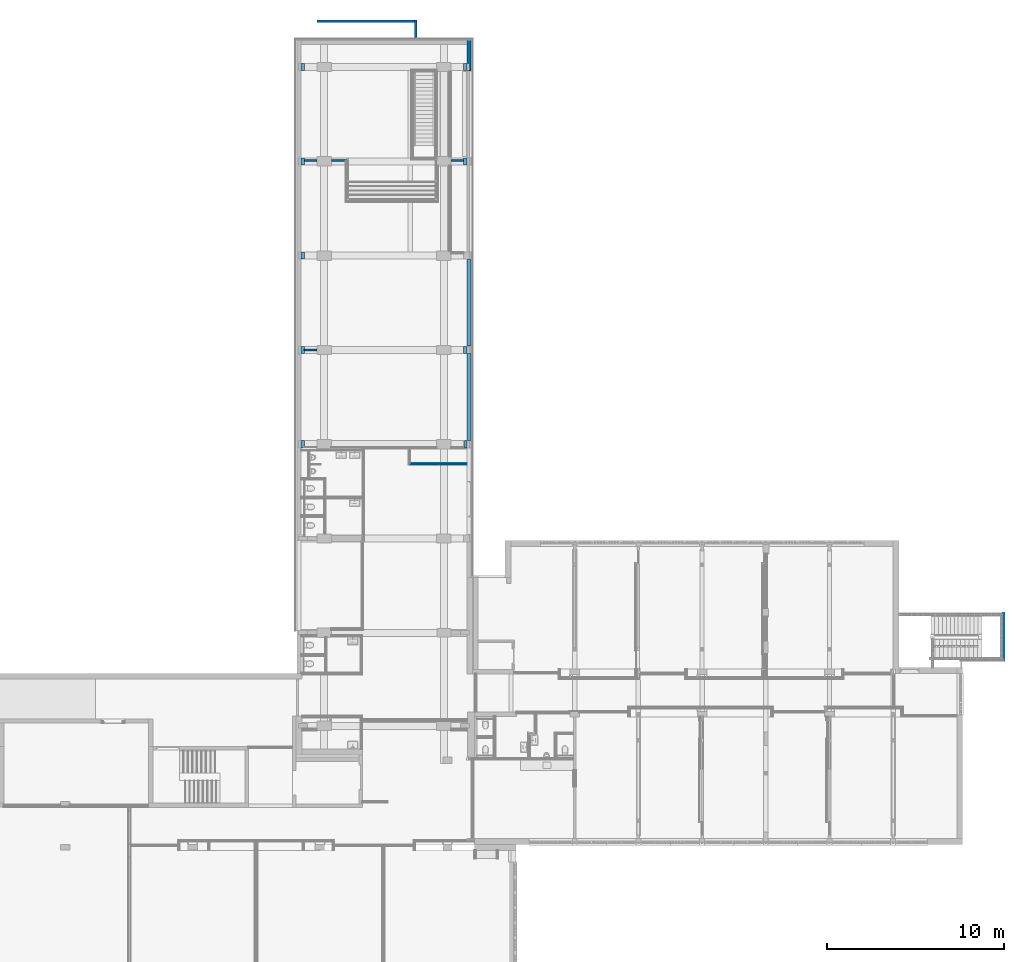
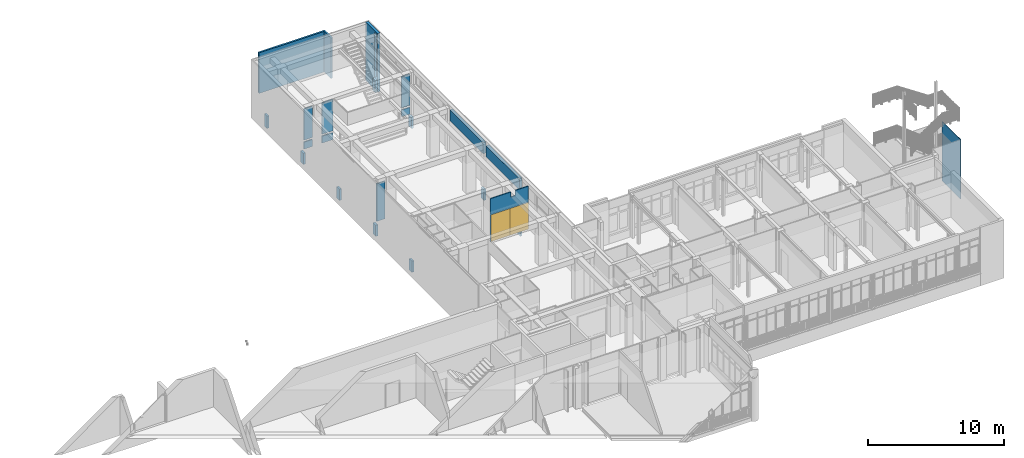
# One storey, part 46 of 135: 19 walls, 3 building element parts, 2 doors, 2 openings, 1 element without a shape of its own.
"""IFC2X3 building model written with IfcOpenShell, lengths in millimetres."""

from ifc_helpers import new_model, entity, si_unit, converted_unit, derived_unit, money_unit, direction, frame, origin_with_axes, place, context, subcontext, project, spatial, faceted_brep, source, transform, mapped, material, type_object, type_shapes, element, fill, aggregate, save


model = new_model("IFC2X3")

# Units and contexts
model_context = context("Model", 3, precision=0.01, world=origin_with_axes(), true_north=direction((0.0, 1.0)))
body_context = subcontext(model_context, "Body", "Model", "MODEL_VIEW")
ifc_project = project(units=[si_unit("LENGTHUNIT", "METRE", prefix="MILLI"), si_unit("AREAUNIT", "SQUARE_METRE"), si_unit("VOLUMEUNIT", "CUBIC_METRE"), converted_unit("PLANEANGLEUNIT", "DEGREE", entity("IfcPlaneAngleMeasure", 0.0174532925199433), si_unit("PLANEANGLEUNIT", "RADIAN"), dimensions=[0, 0, 0, 0, 0, 0, 0]), money_unit("EUR"), converted_unit("TIMEUNIT", "Year", entity("IfcTimeMeasure", 31557600.0), si_unit("TIMEUNIT", "SECOND"), dimensions=[0, 0, 1, 0, 0, 0, 0]), si_unit("MASSUNIT", "GRAM", prefix="KILO"), si_unit("THERMODYNAMICTEMPERATUREUNIT", "DEGREE_CELSIUS"), si_unit("LUMINOUSINTENSITYUNIT", "LUMEN"), si_unit("ENERGYUNIT", "JOULE", prefix="MEGA"), derived_unit("THERMALCONDUCTANCEUNIT", [(si_unit("POWERUNIT", "WATT"), 1), (si_unit("LENGTHUNIT", "METRE"), -1), (si_unit("THERMODYNAMICTEMPERATUREUNIT", "KELVIN"), -1)]), derived_unit("SPECIFICHEATCAPACITYUNIT", [(si_unit("ENERGYUNIT", "JOULE"), 1), (si_unit("MASSUNIT", "GRAM", prefix="KILO"), -1), (si_unit("THERMODYNAMICTEMPERATUREUNIT", "KELVIN"), -1)]), derived_unit("MASSDENSITYUNIT", [(si_unit("MASSUNIT", "GRAM", prefix="KILO"), 1), (si_unit("VOLUMEUNIT", "CUBIC_METRE"), -1)])], contexts=[model_context])

# Site, building, storey
site_placement = place(None, origin_with_axes())
site = spatial("IfcSite", under=ifc_project, at=site_placement, Name="Site", CompositionType="ELEMENT")
building_placement = place(site_placement, origin_with_axes())
building = spatial("IfcBuilding", under=site, at=building_placement, Name="Naam gebouw", CompositionType="ELEMENT")
storey_placement = place(building_placement, origin_with_axes())
storey = spatial("IfcBuildingStorey", under=building, at=storey_placement, Name="Begane grond N", CompositionType="ELEMENT", Elevation=0.0)

# Door
door_style = type_object("IfcDoorStyle", Name="D2 27", ConstructionType="NOTDEFINED", OperationType="DOUBLE_DOOR_SINGLE_SWING", ParameterTakesPrecedence=False, Sizeable=False)
shared_shape = source(origin_with_axes(), body_context, "Body", "Brep", [
    faceted_brep([(-733.0000000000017, -40.0, 0.0), (-733.000000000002, -39.99999999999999, 2333.0), (-733.000000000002, -114.0, 2333.0), (-733.000000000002, -114.0, 0.0), (-750.000000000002, -40.0, 2333.0), (-750.000000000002, -40.0, 0.0), (-750.000000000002, 0.0, 2333.0), (-800.000000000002, 0.0, 2333.0), (-800.000000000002, -114.0, 2333.0), (-800.000000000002, -114.0, 0.0), (-800.000000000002, 0.0, 0.0), (-750.000000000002, 0.0, 0.0)], [[[0, 1, 2, 3]], [[4, 1, 0, 5]], [[4, 6, 7, 8, 2, 1]], [[3, 2, 8, 9]], [[5, 0, 3, 9, 10, 11]], [[6, 4, 5, 11]], [[6, 11, 10, 7]], [[10, 9, 8, 7]]]),
    faceted_brep([(750.000000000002, -40.0, 2333.0), (733.000000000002, -39.99999999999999, 2333.0), (733.000000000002, -114.0, 2333.0), (800.000000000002, -114.0, 2333.0), (800.000000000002, 0.0, 2333.0), (750.000000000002, 0.0, 2333.0), (750.000000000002, -40.0, 0.0), (733.000000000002, -40.0, 0.0), (733.000000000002, -114.0, 0.0), (800.000000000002, -114.0, 0.0), (800.000000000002, 0.0, 0.0), (750.000000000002, 0.0, 0.0)], [[[0, 1, 2, 3, 4, 5]], [[1, 0, 6, 7]], [[1, 7, 8, 2]], [[3, 2, 8, 9]], [[4, 3, 9, 10]], [[11, 5, 4, 10]], [[0, 5, 11, 6]], [[6, 11, 10, 9, 8, 7]]]),
    faceted_brep([(-750.0000000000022, 0.0, 2350.0), (-750.0000000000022, 0.0, 2333.0), (-800.0000000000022, 0.0, 2333.0), (-800.0000000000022, 0.0, 2400.0), (800.0000000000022, 0.0, 2400.0), (800.0000000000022, 0.0, 2333.0), (750.0000000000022, 0.0, 2333.0), (750.0000000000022, 0.0, 2350.0), (-750.0000000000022, -40.0, 2350.0), (-750.0000000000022, -40.0, 2333.0), (-733.000000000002, -39.99999999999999, 2333.0), (-733.000000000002, -114.0, 2333.0), (-800.0000000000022, -114.0, 2333.0), (-800.0000000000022, -114.0, 2400.0), (800.0000000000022, -114.0, 2400.0), (800.0000000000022, -114.0, 2333.0), (750.0000000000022, -40.0, 2333.0), (733.000000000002, -114.0, 2333.0), (733.000000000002, -39.99999999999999, 2333.0), (750.0000000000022, -40.0, 2350.0)], [[[0, 1, 2, 3, 4, 5, 6, 7]], [[1, 0, 8, 9]], [[9, 10, 11, 12, 2, 1]], [[2, 12, 13, 3]], [[3, 13, 14, 4]], [[4, 14, 15, 5]], [[16, 6, 5, 15, 17, 18]], [[7, 6, 16, 19]], [[0, 7, 19, 8]], [[16, 18, 10, 9, 8, 19]], [[10, 18, 17, 11]], [[17, 15, 14, 13, 12, 11]]]),
    faceted_brep([(750.0000000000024, 0.0, 0.0), (750.0000000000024, -40.0, 0.0), (0.0, -40.0, 0.0), (0.0, 0.0, 0.0), (750.0000000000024, 0.0, 2350.0), (750.0000000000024, -40.00000000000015, 2350.0), (0.0, -40.00000000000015, 2350.0), (0.0, 0.0, 2350.0)], [[[0, 1, 2, 3]], [[4, 5, 1, 0]], [[1, 5, 6, 2]], [[3, 2, 6, 7]], [[0, 3, 7, 4]], [[7, 6, 5, 4]]]),
    faceted_brep([(-750.0000000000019, 0.0, 0.0), (0.0, 0.0, 0.0), (0.0, -40.0, 0.0), (-750.0000000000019, -40.0, 0.0), (-750.0000000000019, 0.0, 2350.0), (0.0, 0.0, 2350.0), (0.0, -40.00000000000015, 2350.0), (-750.0000000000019, -40.00000000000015, 2350.0)], [[[0, 1, 2, 3]], [[0, 4, 5, 1]], [[1, 5, 6, 2]], [[3, 2, 6, 7]], [[4, 0, 3, 7]], [[5, 4, 7, 6]]]),
])
type_shapes(door_style, [shared_shape])
wall_16_placement = place(storey_placement, frame((26605.99999999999, 32223.41242510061, -100.0), z_axis=(0.0, 0.0, 1.0), x_axis=(1.0, 0.0, 0.0)))
opening_1_placement = place(wall_16_placement, frame((2500.000000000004, 0.0, 100.0), z_axis=(0.0, 0.0, 1.0), x_axis=(1.0, 0.0, 0.0)))
door_1_placement = place(opening_1_placement, frame((800.0000000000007, 0.0, 0.0), z_axis=(0.0, 0.0, 1.0), x_axis=(-1.0, 0.0, 0.0)))
door_1 = element("IfcDoor", 1, at=door_1_placement, inside=storey, type_object=door_style, Name="_Merk-x", ObjectType="DOOR", OverallHeight=2400.0, OverallWidth=1600.0, context=body_context, shape_type="MappedRepresentation", body=[
    mapped(shared_shape, transform((800.0000000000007, 100.0000000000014, 0.0))),
])

opening_2_placement = place(wall_16_placement, frame((900.0000000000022, 0.0, 100.0), z_axis=(0.0, 0.0, 1.0), x_axis=(1.0, 0.0, 0.0)))
door_2_placement = place(opening_2_placement, frame((800.0000000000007, 0.0, 0.0), z_axis=(0.0, 0.0, 1.0), x_axis=(-1.0, 0.0, 0.0)))
door_2 = element("IfcDoor", 2, at=door_2_placement, inside=storey, type_object=door_style, Name="_Merk-x", ObjectType="DOOR", OverallHeight=2400.0, OverallWidth=1600.0, context=body_context, shape_type="MappedRepresentation", body=[
    mapped(shared_shape, transform((800.0000000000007, 100.0000000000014, 0.0))),
])

# Walls
ifc_material_1 = material(Name="ALG - CONSTRUCTIEF")
wall_type_1 = type_object("IfcWallType", Name="ALG - CONSTRUCTIEF 150", PredefinedType="NOTDEFINED")
wall_1_placement = place(storey_placement, frame((27020.45381441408, 55885.91242510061, 0.0), z_axis=(0.0, 0.0, 1.0), x_axis=(0.0, 1.0, 0.0)))
element("IfcWall", 3, at=wall_1_placement, inside=storey, type_object=wall_type_1, material=ifc_material_1, Name="_Wand-x", context=body_context, shape_type="Brep", body=[
    faceted_brep([(1379.999999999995, -74.99999999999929, 3650.0), (1379.999999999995, 74.99999999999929, 3650.0), (240.000000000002, 74.99999999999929, 3650.0), (240.000000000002, -74.99999999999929, 3650.0), (1379.999999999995, -74.99999999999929, 0.0), (1379.999999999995, 74.99999999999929, 0.0), (240.000000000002, 74.99999999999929, 0.0), (240.000000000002, -74.99999999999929, 0.0)], [[[0, 1, 2, 3]], [[1, 0, 4, 5]], [[1, 5, 6, 2]], [[7, 3, 2, 6]], [[4, 0, 3, 7]], [[5, 4, 7, 6]]]),
])
wall_2_placement = place(storey_placement, frame((27020.45381441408, 57115.91242510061, 0.0), z_axis=(0.0, 0.0, 1.0), x_axis=(-1.0, 0.0, 0.0)))
element("IfcWall", 4, at=wall_2_placement, inside=storey, type_object=wall_type_1, material=ifc_material_1, Name="_Wand-x", context=body_context, shape_type="Brep", body=[
    faceted_brep([(74.99999999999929, -149.9999999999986, 3650.0), (5594.453814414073, -149.9999999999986, 3650.0), (5594.453814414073, 0.0, 3650.0), (74.99999999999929, 0.0, 3650.0), (74.99999999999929, -149.9999999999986, 0.0), (5594.453814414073, -149.9999999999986, 0.0), (5594.453814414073, 0.0, 0.0), (74.99999999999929, 0.0, 0.0)], [[[0, 1, 2, 3]], [[4, 5, 1, 0]], [[2, 1, 5, 6]], [[3, 2, 6, 7]], [[4, 0, 3, 7]], [[7, 6, 5, 4]]]),
])
wall_type_2 = type_object("IfcWallType", Name="ALG - CONSTRUCTIEF 100", PredefinedType="NOTDEFINED")
wall_3_placement = place(storey_placement, frame((20716.0, 49325.9124251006, -100.0), z_axis=(0.0, 0.0, 1.0), x_axis=(1.0, 0.0, 0.0)))
element("IfcWall", 5, at=wall_3_placement, inside=storey, type_object=wall_type_2, material=ifc_material_1, Name="_Wand-x", context=body_context, shape_type="Brep", body=[
    faceted_brep([(710.0000000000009, 49.99999999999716, 899.9999999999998), (0.0, 49.99999999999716, 899.9999999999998), (0.0, 49.99999999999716, 3699.999999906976), (710.0000000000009, 49.99999999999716, 3699.999999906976), (710.0000000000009, -50.00000146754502, 900.0), (0.0, -50.00000064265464, 900.0), (0.0, -50.0000000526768, 3699.999999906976), (710.0000000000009, -50.00000012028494, 3699.999999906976)], [[[0, 1, 2, 3]], [[0, 4, 5, 1]], [[1, 5, 6, 2]], [[2, 6, 7, 3]], [[4, 0, 3, 7]], [[5, 4, 7, 6]]]),
    faceted_brep([(710.0000000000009, 49.99999999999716, 100.0), (0.0, 49.99999999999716, 100.0), (0.0, 49.99999999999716, 720.0000000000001), (710.0000000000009, 49.99999999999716, 720.0000000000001), (710.0000000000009, -49.99999999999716, 100.0), (0.0, -49.99999999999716, 100.0), (0.0, -50.00000064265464, 720.0000000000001), (710.0000000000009, -50.00000146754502, 720.0000000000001)], [[[0, 1, 2, 3]], [[4, 5, 1, 0]], [[1, 5, 6, 2]], [[2, 6, 7, 3]], [[4, 0, 3, 7]], [[5, 4, 7, 6]]]),
])
wall_4_placement = place(storey_placement, frame((20716.0, 38615.91242510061, -100.0), z_axis=(0.0, 0.0, 1.0), x_axis=(1.0, 0.0, 0.0)))
element("IfcWall", 6, at=wall_4_placement, inside=storey, type_object=wall_type_2, material=ifc_material_1, Name="_Wand-x", context=body_context, shape_type="Brep", body=[
    faceted_brep([(710.0000000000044, 49.99999999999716, 100.0), (0.0, 49.99999999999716, 100.0), (0.0, 49.99999999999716, 3479.999322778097), (710.0000000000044, 49.99999999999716, 3479.999322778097), (710.0000000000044, -49.99999999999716, 100.0), (0.0, -49.99999999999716, 100.0), (0.0, -49.99999999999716, 3479.999322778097), (710.0000000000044, -49.99999999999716, 3479.999322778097)], [[[0, 1, 2, 3]], [[0, 4, 5, 1]], [[1, 5, 6, 2]], [[2, 6, 7, 3]], [[4, 0, 3, 7]], [[5, 4, 7, 6]]]),
])
wall_5_placement = place(storey_placement, frame((22246.0, 49325.912422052, -100.0), z_axis=(0.0, 0.0, 1.0), x_axis=(1.0, 0.0, 0.0)))
element("IfcWall", 7, at=wall_5_placement, inside=storey, type_object=wall_type_2, material=ifc_material_1, Name="_Wand-x", context=body_context, shape_type="Brep", body=[
    faceted_brep([(914.0000261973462, 49.99999999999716, 899.9999999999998), (0.0, 49.99999999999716, 899.9999999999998), (0.0, 49.99999999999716, 3699.999999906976), (914.0000261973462, 49.99999999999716, 3699.999999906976), (914.0000262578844, -50.0000004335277, 900.0), (0.0, -49.99999937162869, 900.0), (0.0, -49.9999999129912, 3699.999999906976), (914.0000262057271, -50.00000006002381, 3699.999999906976)], [[[0, 1, 2, 3]], [[0, 4, 5, 1]], [[1, 5, 6, 2]], [[2, 6, 7, 3]], [[4, 0, 3, 7]], [[5, 4, 7, 6]]]),
    faceted_brep([(914.0000261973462, 49.99999999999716, 100.0), (0.0, 49.99999999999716, 100.0), (0.0, 49.99999999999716, 720.0000000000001), (914.0000261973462, 49.99999999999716, 720.0000000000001), (914.0000261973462, -49.99999999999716, 100.0), (0.0, -49.99999999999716, 100.0), (0.0, -49.99999937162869, 720.0000000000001), (914.0000262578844, -50.0000004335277, 720.0000000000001)], [[[0, 1, 2, 3]], [[4, 5, 1, 0]], [[1, 5, 6, 2]], [[2, 6, 7, 3]], [[4, 0, 3, 7]], [[5, 4, 7, 6]]]),
])
wall_6_placement = place(storey_placement, frame((29015.99999999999, 49325.9124251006, -100.0), z_axis=(0.0, 0.0, 1.0), x_axis=(1.0, 0.0, 0.0)))
element("IfcWall", 8, at=wall_6_placement, inside=storey, type_object=wall_type_2, material=ifc_material_1, Name="_Wand-x", context=body_context, shape_type="Brep", body=[
    faceted_brep([(710.0000000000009, 49.99999999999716, 899.9999999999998), (0.0, 49.99999999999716, 899.9999999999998), (0.0, 49.99999999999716, 3699.999999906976), (710.0000000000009, 49.99999999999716, 3699.999999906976), (710.0000000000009, -49.99999999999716, 900.0), (0.0, -49.99999999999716, 900.0), (0.0, -49.99999999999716, 3699.999999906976), (710.0000000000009, -49.99999999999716, 3699.999999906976)], [[[0, 1, 2, 3]], [[0, 4, 5, 1]], [[1, 5, 6, 2]], [[2, 6, 7, 3]], [[4, 0, 3, 7]], [[5, 4, 7, 6]]]),
    faceted_brep([(710.0000000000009, 49.99999999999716, 100.0), (0.0, 49.99999999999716, 100.0), (0.0, 49.99999999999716, 720.0000000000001), (710.0000000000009, 49.99999999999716, 720.0000000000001), (710.0000000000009, -49.99999999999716, 100.0), (0.0, -49.99999999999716, 100.0), (0.0, -49.99999999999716, 720.0000000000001), (710.0000000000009, -49.99999999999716, 720.0000000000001)], [[[0, 1, 2, 3]], [[4, 5, 1, 0]], [[1, 5, 6, 2]], [[2, 6, 7, 3]], [[4, 0, 3, 7]], [[5, 4, 7, 6]]]),
])
wall_type_3 = type_object("IfcWallType", Name="ALG - CONSTRUCTIEF 240", PredefinedType="NOTDEFINED")
wall_7_placement = place(storey_placement, frame((29906.0, 55885.91242510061, -1200.0), z_axis=(0.0, 0.0, 1.0), x_axis=(0.0, -1.0, 0.0)))
element("IfcWall", 9, at=wall_7_placement, inside=storey, type_object=wall_type_3, material=ifc_material_1, Name="_Wand-x", context=body_context, shape_type="Brep", body=[
    faceted_brep([(1080.000000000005, 149.9999999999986, 1100.0), (1080.000000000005, 149.9999999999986, 5150.0), (1080.000000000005, 0.0, 5150.0), (1080.000000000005, 0.0, 1100.0), (1480.000000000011, 149.9999999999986, 1100.0), (1480.000000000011, 149.9999999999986, 5150.0), (1480.000000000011, 0.0, 5150.0), (1495.000000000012, 0.0, 5250.000000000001), (-240.000000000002, 0.0, 5250.000000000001), (-240.000000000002, 0.0, 0.0), (1495.000000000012, 0.0, 0.0), (1480.000000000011, 0.0, 1100.0), (1495.000000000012, 239.9999999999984, 5250.000000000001), (-240.000000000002, 240.000000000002, 5250.000000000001), (-240.000000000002, 239.9999999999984, 0.0), (1495.000000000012, 239.9999999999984, 0.0)], [[[0, 1, 2, 3]], [[0, 4, 5, 1]], [[5, 6, 2, 1]], [[7, 8, 9, 10], [2, 6, 11, 3]], [[0, 3, 11, 4]], [[11, 6, 5, 4]], [[12, 13, 8, 7]], [[9, 8, 13, 14]], [[10, 9, 14, 15]], [[12, 7, 10, 15]], [[15, 14, 13, 12]]]),
])
wall_type_4 = type_object("IfcWallType", Name="ALG - CONSTRUCTIEF 400", PredefinedType="NOTDEFINED")
for number, where, z_axis, x_axis, name in (
    (10, (20536.0, 43945.91242510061, -1200.0), (0.0, 0.0, 1.0), (1.0, 0.0, 0.0), "_Wand-x"),
    (11, (20536.0, 38615.91242510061, -1200.0), (0.0, 0.0, 1.0), (1.0, 0.0, 0.0), "_Wand-x"),
):
    element("IfcWall", number, at=place(storey_placement, frame(where, z_axis=z_axis, x_axis=x_axis)), inside=storey, type_object=wall_type_4, material=ifc_material_1, Name=name, context=body_context, shape_type="Brep", body=[
        faceted_brep([(0.0, 200.0000000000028, 0.0), (0.0, 200.0000000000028, 1000.0), (179.9999999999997, 200.0000000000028, 999.9999999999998), (179.9999999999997, 200.0000000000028, 0.0), (0.0, -200.0000000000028, 0.0), (0.0, -200.0000000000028, 1000.0), (179.9999999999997, -200.0000000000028, 1000.0), (179.9999999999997, -200.0000000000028, 0.0)], [[[0, 1, 2, 3]], [[4, 5, 1, 0]], [[5, 6, 2, 1]], [[3, 2, 6, 7]], [[4, 0, 3, 7]], [[7, 6, 5, 4]]]),
    ])
wall_8_placement = place(storey_placement, frame((20536.0, 49275.9124251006, -1200.0), z_axis=(0.0, 0.0, 1.0), x_axis=(1.0, 0.0, 0.0)))
element("IfcWall", 12, at=wall_8_placement, inside=storey, type_object=wall_type_4, material=ifc_material_1, Name="_Wand-x", context=body_context, shape_type="Brep", body=[
    faceted_brep([(0.0, 200.0000000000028, 0.0), (0.0, 199.9999999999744, 1000.0), (179.9999999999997, 199.9999999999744, 1000.0), (179.9999999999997, 200.0000000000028, 0.0), (0.0, -200.0000000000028, 0.0), (0.0, -200.0000000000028, 1000.0), (179.9999999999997, -200.0000000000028, 1000.0), (179.9999999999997, -200.0000000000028, 0.0)], [[[0, 1, 2, 3]], [[4, 5, 1, 0]], [[5, 6, 2, 1]], [[3, 2, 6, 7]], [[4, 0, 3, 7]], [[7, 6, 5, 4]]]),
])
wall_9_placement = place(storey_placement, frame((29726.0, 38615.91242510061, -1200.0), z_axis=(0.0, 0.0, 1.0), x_axis=(1.0, 0.0, 0.0)))
element("IfcWall", 13, at=wall_9_placement, inside=storey, type_object=wall_type_4, material=ifc_material_1, Name="_Wand-x", context=body_context, shape_type="Brep", body=[
    faceted_brep([(0.0, 200.0000000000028, 0.0), (0.0, 200.0000000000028, 999.9999999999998), (179.9999999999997, 200.0000000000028, 999.9999999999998), (179.9999999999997, 200.0000000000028, 0.0), (0.0, -200.0000000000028, 0.0), (0.0, -200.0000000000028, 1000.0), (179.9999999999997, -200.0000000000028, 1000.0), (179.9999999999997, -200.0000000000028, 0.0)], [[[0, 1, 2, 3]], [[4, 5, 1, 0]], [[5, 6, 2, 1]], [[3, 2, 6, 7]], [[0, 3, 7, 4]], [[7, 6, 5, 4]]]),
])
wall_10_placement = place(storey_placement, frame((29726.0, 54605.9124251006, -1200.0), z_axis=(0.0, 0.0, 1.0), x_axis=(1.0, 0.0, 0.0)))
element("IfcWall", 14, at=wall_10_placement, inside=storey, type_object=wall_type_4, material=ifc_material_1, Name="_Wand-x", context=body_context, shape_type="Brep", body=[
    faceted_brep([(0.0, 200.0000000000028, 0.0), (0.0, 200.0000000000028, 1100.0), (179.9999999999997, 200.0000000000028, 1100.0), (179.9999999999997, 200.0000000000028, 0.0), (0.0, -200.0000000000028, 0.0), (0.0, -200.0000000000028, 1100.0), (179.9999999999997, -200.0000000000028, 1100.0), (179.9999999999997, -200.0000000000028, 0.0)], [[[0, 1, 2, 3]], [[4, 5, 1, 0]], [[5, 6, 2, 1]], [[3, 2, 6, 7]], [[4, 0, 3, 7]], [[7, 6, 5, 4]]]),
])
wall_11_placement = place(storey_placement, frame((29765.0, 33285.91242510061, -1200.0), z_axis=(0.0, 0.0, 1.0), x_axis=(1.0, 0.0, 0.0)))
element("IfcWall", 15, at=wall_11_placement, inside=storey, type_object=wall_type_4, material=ifc_material_1, Name="_Wand-x", context=body_context, shape_type="Brep", body=[
    faceted_brep([(0.0, 200.0000000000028, 0.0), (0.0, 200.0000000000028, 999.9999999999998), (140.9999999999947, 200.0000000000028, 999.9999999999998), (140.9999999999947, 200.0000000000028, 0.0), (0.0, -200.0000000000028, 0.0), (0.0, -200.0000000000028, 1000.0), (140.9999999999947, -200.0000000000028, 1000.0), (140.9999999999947, -200.0000000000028, 0.0)], [[[0, 1, 2, 3]], [[4, 5, 1, 0]], [[5, 6, 2, 1]], [[3, 2, 6, 7]], [[0, 3, 7, 4]], [[7, 6, 5, 4]]]),
])
wall_12_placement = place(storey_placement, frame((20536.0, 54605.9124251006, -1200.0), z_axis=(0.0, 0.0, 1.0), x_axis=(1.0, 0.0, 0.0)))
element("IfcWall", 16, at=wall_12_placement, inside=storey, type_object=wall_type_4, material=ifc_material_1, Name="_Wand-x", context=body_context, shape_type="Brep", body=[
    faceted_brep([(0.0, 200.0000000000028, 0.0), (0.0, 200.0000000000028, 1100.0), (179.9999999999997, 200.0000000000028, 1100.0), (179.9999999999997, 200.0000000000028, 0.0), (0.0, -200.0000000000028, 0.0), (0.0, -200.0000000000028, 1100.0), (179.9999999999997, -200.0000000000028, 1100.0), (179.9999999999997, -200.0000000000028, 0.0)], [[[0, 1, 2, 3]], [[4, 5, 1, 0]], [[5, 6, 2, 1]], [[3, 2, 6, 7]], [[7, 4, 0, 3]], [[7, 6, 5, 4]]]),
])
wall_13_placement = place(storey_placement, frame((20536.0, 33285.91242510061, -1200.0), z_axis=(0.0, 0.0, 1.0), x_axis=(1.0, 0.0, 0.0)))
element("IfcWall", 17, at=wall_13_placement, inside=storey, type_object=wall_type_4, material=ifc_material_1, Name="_Wand-x", context=body_context, shape_type="Brep", body=[
    faceted_brep([(0.0, 200.0000000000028, 0.0), (0.0, 200.0000000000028, 1000.0), (179.9999999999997, 200.0000000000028, 999.9999999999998), (179.9999999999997, 200.0000000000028, 0.0), (0.0, -200.0000000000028, 0.0), (0.0, -200.0000000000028, 1000.0), (179.9999999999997, -200.0000000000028, 1000.0), (179.9999999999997, -200.0000000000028, 0.0)], [[[0, 1, 2, 3]], [[4, 5, 1, 0]], [[5, 6, 2, 1]], [[3, 2, 6, 7]], [[3, 7, 4, 0]], [[7, 6, 5, 4]]]),
])
wall_14_placement = place(storey_placement, frame((29726.0, 49275.9124251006, -1200.0), z_axis=(0.0, 0.0, 1.0), x_axis=(1.0, 0.0, 0.0)))
element("IfcWall", 18, at=wall_14_placement, inside=storey, type_object=wall_type_4, material=ifc_material_1, Name="_Wand-x", context=body_context, shape_type="Brep", body=[
    faceted_brep([(0.0, 200.0000000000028, 0.0), (0.0, 199.9999999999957, 1000.0), (179.9999999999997, 199.9999999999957, 1000.0), (179.9999999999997, 200.0000000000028, 0.0), (0.0, -200.0000000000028, 0.0), (0.0, -200.0000000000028, 1000.0), (179.9999999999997, -200.0000000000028, 1000.0), (179.9999999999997, -200.0000000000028, 0.0)], [[[0, 1, 2, 3]], [[4, 5, 1, 0]], [[5, 6, 2, 1]], [[3, 2, 6, 7]], [[0, 3, 7, 4]], [[7, 6, 5, 4]]]),
])
ifc_material_2 = material(Name="Steen - Betonblok")
wall_type_5 = type_object("IfcWallType", Name="Steen - Betonblok 240", PredefinedType="NOTDEFINED")
for number, where, z_axis, x_axis, name in (
    (19, (29905.99999999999, 38400.9124251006, 2700.0), (0.0, 0.0, 1.0), (0.0, -1.0, 0.0), "_Wand-x"),
    (20, (29906.0, 43730.9124251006, 2700.0), (0.0, 0.0, 1.0), (0.0, -1.0, 0.0), "_Wand-x"),
):
    element("IfcWall", number, at=place(storey_placement, frame(where, z_axis=z_axis, x_axis=x_axis)), inside=storey, type_object=wall_type_5, material=ifc_material_2, Name=name, context=body_context, shape_type="Brep", body=[
        faceted_brep([(0.0, 0.0, 1000.0), (4899.999999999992, 0.0, 1000.0), (4899.999999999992, 239.9999999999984, 1000.0), (0.0, 239.9999999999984, 1000.0), (0.0, 0.0, 0.0), (4899.999999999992, 0.0, 0.0), (4899.999999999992, 239.9999999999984, 0.0), (0.0, 239.9999999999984, 0.0)], [[[0, 1, 2, 3]], [[4, 5, 1, 0]], [[2, 1, 5, 6]], [[3, 2, 6, 7]], [[4, 0, 3, 7]], [[7, 6, 5, 4]]]),
    ])
ifc_material_3 = material(Name="ALG - ONTWERPWAND")
wall_type_6 = type_object("IfcWallType", Name="ALG - ONTWERPWAND 50", PredefinedType="NOTDEFINED")
wall_15_placement = place(storey_placement, frame((60214.99999999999, 21090.9124251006, -1200.0), z_axis=(0.0, 0.0, 1.0), x_axis=(0.0, 1.0, 0.0)))
element("IfcWall", 21, at=wall_15_placement, inside=storey, type_object=wall_type_6, material=ifc_material_3, Name="_Wand-x", context=body_context, shape_type="Brep", body=[
    faceted_brep([(2630.000000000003, -49.99999999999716, 5350.000000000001), (2630.000000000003, 0.0, 5350.000000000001), (-50.00000000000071, 0.0, 5350.000000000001), (-50.00000000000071, -49.99999999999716, 5350.000000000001), (2630.000000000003, -49.99999999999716, 0.0), (2630.000000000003, 0.0, 0.0), (-50.00000000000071, 0.0, 0.0), (-50.00000000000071, -49.99999999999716, 0.0)], [[[0, 1, 2, 3]], [[1, 0, 4, 5]], [[1, 5, 6, 2]], [[7, 3, 2, 6]], [[4, 0, 3, 7]], [[5, 4, 7, 6]]]),
])

# Wall, opening
wall_type_7 = type_object("IfcWallType", Name="Metalstud iso 100 100", PredefinedType="NOTDEFINED")
wall_16 = element("IfcWall", 22, at=wall_16_placement, inside=storey, type_object=wall_type_7, Name="_Wand-x")
opening_1 = element("IfcOpeningElement", 23, at=opening_1_placement, cuts=wall_16, Name="_Merk-x", context=body_context, shape_type="Brep", body=[
    faceted_brep([(800.0000000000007, 0.9999999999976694, 2400.0), (800.0000000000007, 0.9999999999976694, 0.0), (-800.0000000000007, 0.9999999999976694, 0.0), (-800.0000000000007, 0.9999999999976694, 2400.0), (800.0000000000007, -100.9999999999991, 2400.0), (800.0000000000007, -100.9999999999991, 0.0), (-800.0000000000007, -100.9999999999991, 0.0), (-800.0000000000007, -100.9999999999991, 2400.0)], [[[0, 1, 2, 3]], [[4, 5, 1, 0]], [[5, 6, 2, 1]], [[6, 7, 3, 2]], [[7, 4, 0, 3]], [[6, 5, 4, 7]]]),
])

fill(opening_1, door_1)

# Opening
opening_2 = element("IfcOpeningElement", 24, at=opening_2_placement, cuts=wall_16, Name="_Merk-x", context=body_context, shape_type="Brep", body=[
    faceted_brep([(800.0000000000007, 0.9999999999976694, 2400.0), (800.0000000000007, 0.9999999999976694, 0.0), (-800.0000000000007, 0.9999999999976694, 0.0), (-800.0000000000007, 0.9999999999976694, 2400.0), (800.0000000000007, -100.9999999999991, 2400.0), (800.0000000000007, -100.9999999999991, 0.0), (-800.0000000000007, -100.9999999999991, 0.0), (-800.0000000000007, -100.9999999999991, 2400.0)], [[[0, 1, 2, 3]], [[4, 5, 1, 0]], [[5, 6, 2, 1]], [[6, 7, 3, 2]], [[7, 4, 0, 3]], [[6, 5, 4, 7]]]),
])

fill(opening_2, door_2)

# Building element part
ifc_material_4 = material(Name="Gipsplaat")
building_element_part_1_placement = place(wall_16_placement, origin_with_axes())
building_element_part_1 = element("IfcBuildingElementPart", 25, at=building_element_part_1_placement, material=ifc_material_4, Name="Gipsplaat", context=body_context, shape_type="Brep", body=[
    faceted_brep([(3300.000000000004, -12.50000000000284, 2500.0), (100.0000000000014, -12.50000000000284, 2500.0), (100.0000000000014, 0.0, 2500.0), (3300.000000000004, 0.0, 2500.0), (100.0000000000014, -12.50000000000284, 3950.0), (3299.999999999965, -12.50000000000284, 3950.0), (2200.000000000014, -12.50000000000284, 3950.0), (2200.000000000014, -12.50000000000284, 3479.998429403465), (1800.000000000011, -12.50000000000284, 3479.998429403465), (1800.000000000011, -12.50000000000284, 3950.0), (100.0000000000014, 0.0, 3950.0), (1800.000000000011, 0.0, 3950.0), (1800.000000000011, 0.0, 3479.99843045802), (2200.000000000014, 0.0, 3479.99843045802), (2200.000000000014, 0.0, 3950.0), (3299.999999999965, 0.0, 3950.0)], [[[0, 1, 2, 3]], [[4, 1, 0, 5, 6, 7, 8, 9]], [[10, 2, 1, 4]], [[3, 2, 10, 11, 12, 13, 14, 15]], [[0, 3, 15, 5]], [[6, 5, 15, 14]], [[14, 13, 7, 6]], [[12, 8, 7, 13]], [[11, 9, 8, 12]], [[11, 10, 4, 9]]]),
])

building_element_part_2_placement = place(wall_16_placement, origin_with_axes())
building_element_part_2 = element("IfcBuildingElementPart", 26, at=building_element_part_2_placement, material=ifc_material_4, Name="Gipsplaat", context=body_context, shape_type="Brep", body=[
    faceted_brep([(3300.000000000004, -100.0000000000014, 2500.0), (100.0000000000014, -100.0000000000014, 2500.0), (100.0000000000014, -87.49999999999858, 2500.0), (3300.000000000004, -87.49999999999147, 2500.0), (100.0000000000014, -100.0000000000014, 100.0), (3299.999999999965, -100.0000000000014, 3950.0), (2200.000000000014, -100.0000000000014, 3950.0), (2200.000000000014, -100.0000000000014, 3479.998422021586), (1800.000000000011, -100.0000000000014, 3479.998422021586), (1800.000000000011, -100.0000000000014, 3950.0), (12.49999999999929, -100.0000000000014, 3950.0), (12.49999999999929, -100.0000000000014, 100.0), (100.0000000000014, -87.49999999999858, 100.0), (12.49999999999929, -87.49999999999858, 100.0), (12.49999999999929, -87.49999999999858, 3950.0), (1800.000000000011, -87.49999999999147, 3950.0), (1800.000000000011, -87.49999999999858, 3479.998423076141), (2200.000000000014, -87.49999999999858, 3479.998423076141), (2200.000000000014, -87.49999999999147, 3950.0), (3299.999999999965, -87.49999999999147, 3950.0)], [[[0, 1, 2, 3]], [[4, 1, 0, 5, 6, 7, 8, 9, 10, 11]], [[4, 12, 2, 1]], [[3, 2, 12, 13, 14, 15, 16, 17, 18, 19]], [[0, 3, 19, 5]], [[6, 5, 19, 18]], [[18, 17, 7, 6]], [[16, 8, 7, 17]], [[15, 9, 8, 16]], [[15, 14, 10, 9]], [[10, 14, 13, 11]], [[13, 12, 4, 11]]]),
])

ifc_material_5 = material(Name="Isolatie - Steenwol LSW")
building_element_part_3_placement = place(wall_16_placement, origin_with_axes())
building_element_part_3 = element("IfcBuildingElementPart", 27, at=building_element_part_3_placement, material=ifc_material_5, Name="Isolatie - Steenwol LSW", context=body_context, shape_type="Brep", body=[
    faceted_brep([(3300.000000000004, -87.49999999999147, 2500.0), (100.0000000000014, -87.49999999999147, 2500.0), (100.0000000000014, -12.50000000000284, 2500.0), (3300.000000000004, -12.50000000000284, 2500.0), (100.0000000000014, -87.49999999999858, 100.0), (3299.999999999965, -87.49999999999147, 3950.0), (2200.000000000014, -87.49999999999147, 3950.0), (2200.000000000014, -87.49999999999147, 3479.998423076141), (1800.000000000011, -87.49999999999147, 3479.998423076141), (1800.000000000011, -87.49999999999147, 3950.0), (87.49999999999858, -87.49999999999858, 3950.0), (87.49999999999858, -87.49999999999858, 100.0), (100.0000000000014, -12.50000000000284, 100.0), (87.49999999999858, -12.50000000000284, 100.0), (87.49999999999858, -12.50000000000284, 3950.0), (1800.000000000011, -12.50000000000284, 3950.0), (1800.000000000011, -12.50000000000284, 3479.998429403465), (2200.000000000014, -12.50000000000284, 3479.998429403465), (2200.000000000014, -12.50000000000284, 3950.0), (3299.999999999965, -12.50000000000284, 3950.0)], [[[0, 1, 2, 3]], [[4, 1, 0, 5, 6, 7, 8, 9, 10, 11]], [[4, 12, 2, 1]], [[3, 2, 12, 13, 14, 15, 16, 17, 18, 19]], [[0, 3, 19, 5]], [[6, 5, 19, 18]], [[18, 17, 7, 6]], [[16, 8, 7, 17]], [[15, 9, 8, 16]], [[15, 14, 10, 9]], [[10, 14, 13, 11]], [[13, 12, 4, 11]]]),
])

aggregate(wall_16, [building_element_part_1, building_element_part_2, building_element_part_3])

save(model, "model.ifc")
